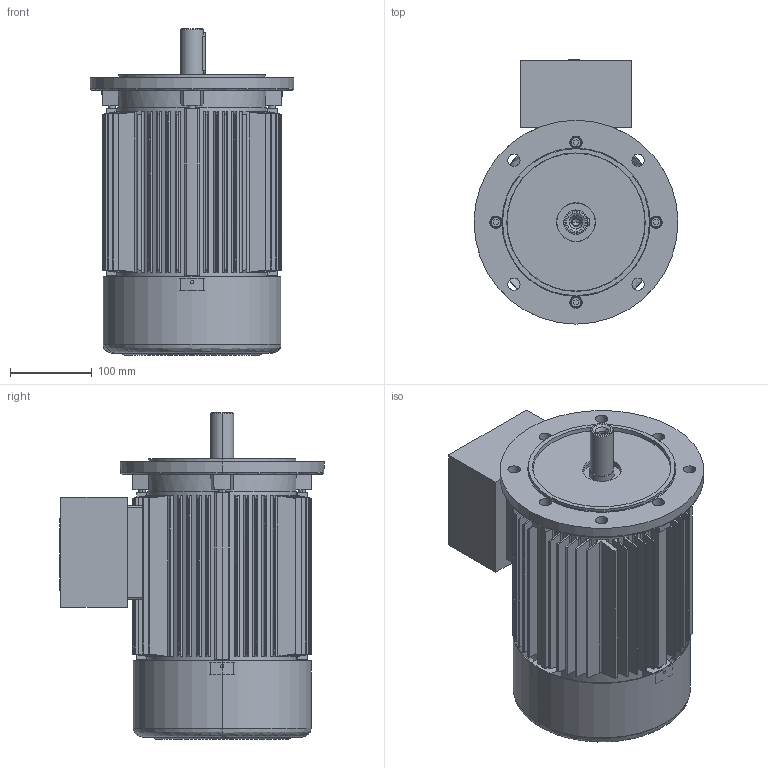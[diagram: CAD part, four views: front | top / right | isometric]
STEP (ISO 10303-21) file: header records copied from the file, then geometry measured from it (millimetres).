
FILE_DESCRIPTION (( 'STEP AP214' ), '1' );
FILE_NAME ('20.17501-B 5AT 112 B5 Exde STANDK.STEP', '2018-05-11T09:34:26', ( '' ), ( '' ), 'SwSTEP 2.0', 'SolidWorks 2017', '' );
FILE_SCHEMA (( 'AUTOMOTIVE_DESIGN' ));
Length unit declared in the file: millimetre
Products named in the file (1): 20.17501-B 5AT 112 B5 Exde STANDK
Bounding box: 249.9 x 323.95 x 399.8 mm (x, y, z)
Volume: 5774367.2 mm3; surface area: 1099060 mm2
Topology: 11 solids, 12 shells, 934 faces, 2335 edges, 1523 vertices
Faces by surface type: cylinder 383, plane 366, cone 153, torus 16, bspline 16
Entity records: 39404 total; most frequent: CARTESIAN_POINT 10857, ORIENTED_EDGE 4638, DIRECTION 4410, EDGE_CURVE 2319, AXIS2_PLACEMENT_3D 1672, VERTEX_POINT 1523, EDGE_LOOP 1084, VECTOR 1066
